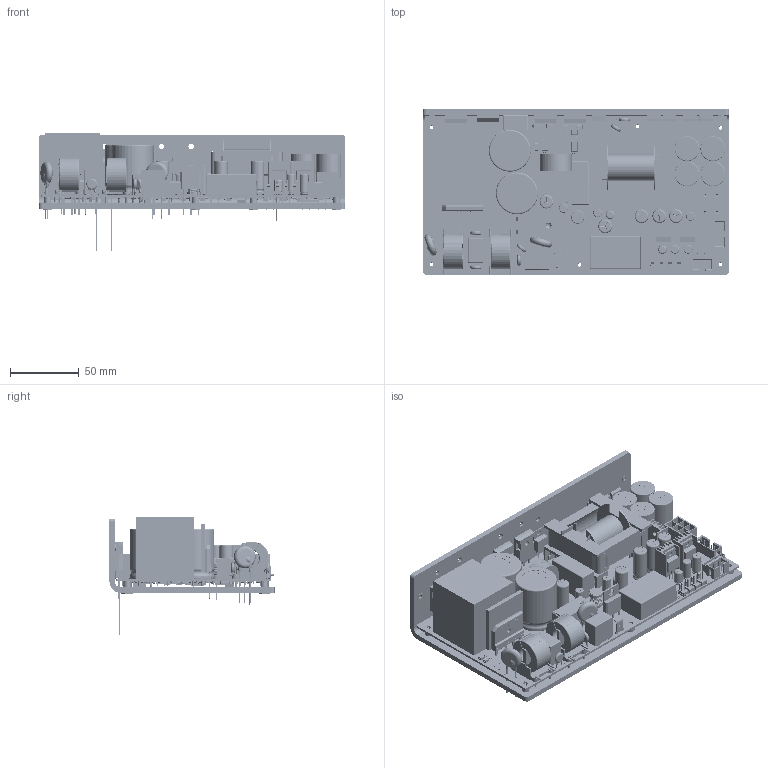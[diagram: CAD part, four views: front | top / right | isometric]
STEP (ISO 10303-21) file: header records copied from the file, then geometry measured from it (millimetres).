
FILE_DESCRIPTION(('Open CASCADE Model'),'2;1');
FILE_NAME('Open CASCADE Shape Model','2023-07-25T07:11:10',('Author'),( 'Open CASCADE'),'Open CASCADE STEP processor 6.8','Open CASCADE 6.8' ,'Unknown');
FILE_SCHEMA(('AUTOMOTIVE_DESIGN { 1 0 10303 214 1 1 1 1 }'));
Length unit declared in the file: millimetre
Products named in the file (452): PCB; Board; Open CASCADE STEP translator 6.8 1.1.1; R103; User_Library-Resistor0805; R106; R105; R104; C98; User_Library-C0805-2; C97; J6; User_Library-Header2x3-shrouded-vertical; R102; C63; User_Library-Cap_6_3x11; User_Library-Cap_6.3x11_1_1; User_Library-Cap_6.3x11_2_1; User_Library-Cap_6.3x11_3_1; User_Library-Cap_6.3x11_4_1; User_Library-Cap_6.3x11_5_1; User_Library-Cap_6.3x11_6_1; User_Library-Cap_6.3x11_7_1; User_Library-Cap_6.3x11_8_1; User_Library-Cap_6.3x11_9_1; User_Library-Cap_6.3x11_10_1; R101; SW3dPS-1206_SMD_Resistor; C94; SW3dPS-1206_SMD_Capacitor; KK3; User_Library-DY-CN-2,5; User_Library-DY-CN-2,5_Part_1; User_Library-DY-CN-2,5_Part_2; R6; RES_-_2512; VRS-1; 45935; R22; R24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
Assembly tree (786 placements, depth 4):
  PCB
    Board
      Open CASCADE STEP translator 6.8 1.1.1
    R103
      User_Library-Resistor0805
    R106
      User_Library-Resistor0805
    R105
      User_Library-Resistor0805
    R104
      User_Library-Resistor0805
    C98
      User_Library-C0805-2
    C97
      User_Library-C0805-2
    J6
      User_Library-Header2x3-shrouded-vertical
    R102
      User_Library-Resistor0805
    C63
      User_Library-Cap_6_3x11
        User_Library-Cap_6.3x11_1_1
        User_Library-Cap_6.3x11_2_1
        User_Library-Cap_6.3x11_3_1
        User_Library-Cap_6.3x11_4_1
        User_Library-Cap_6.3x11_5_1
        User_Library-Cap_6.3x11_6_1
        User_Library-Cap_6.3x11_7_1
        User_Library-Cap_6.3x11_8_1
        User_Library-Cap_6.3x11_9_1
        User_Library-Cap_6.3x11_10_1
    R101
      SW3dPS-1206_SMD_Resistor
    C94
      SW3dPS-1206_SMD_Capacitor
    KK3
      User_Library-DY-CN-2,5
        User_Library-DY-CN-2,5_Part_1
        User_Library-DY-CN-2,5_Part_2
    R6
      RES_-_2512
    VRS-1
      45935
    R22
      SW3dPS-1206_SMD_Resistor
    R24
      SW3dPS-1206_SMD_Resistor
    TH2
      User_Library-KSD-01F_D_115~C_Bimetal_Temperature_Control_Switch_
Thermostat_250V_5A
    LED1
      6471722160
      6471722400
        Extruded
      6471517552
        Extruded
      6471517712
        Extruded
      6471723840
        Extruded
      6471518512  x2
Bounding box: 222.84 x 120.06 x 86.46 mm (x, y, z)
Volume: 477944.2 mm3; surface area: 286662.6 mm2
Topology: 696 solids, 701 shells, 30336 faces, 74652 edges, 44644 vertices
Faces by surface type: plane 13607, cylinder 7197, bspline 6715, sphere 1764, torus 883, cone 170
Full cylindrical faces by diameter (mm): 0.385 x1, 0.508 x1, 0.6 x3, 0.762 x14, 0.8 x26, 0.812 x15, 0.9 x5, 0.914 x2, 1 x149, 1.016 x42, 1.1 x6, 1.118 x12, 1.194 x2, 1.2 x10, 1.27 x9, 1.32 x6, 1.396 x4, 1.397 x3, 1.498 x2, 1.5 x34, 1.6 x10, 1.652 x3, 2 x1, 2.006 x4, 2.05 x6, 2.51 x114, 3 x34, 3.1 x6, 3.15 x8, 3.9 x6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
Entity records: 347605 total; most frequent: CARTESIAN_POINT 119727, ORIENTED_EDGE 39022, DIRECTION 34578, EDGE_CURVE 19511, LINE 12592, VECTOR 12592, VERTEX_POINT 12409, AXIS2_PLACEMENT_3D 10993
